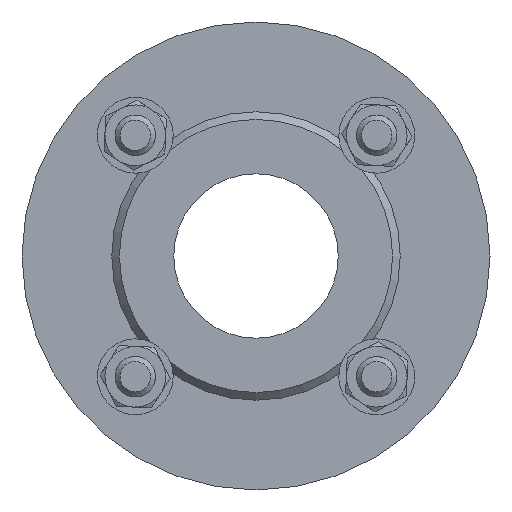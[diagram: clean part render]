
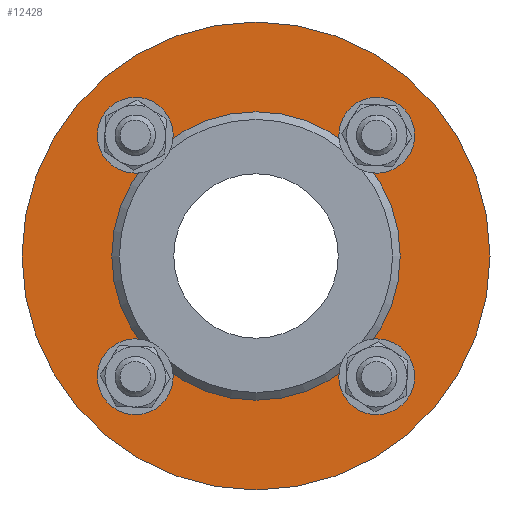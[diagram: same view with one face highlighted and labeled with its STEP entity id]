
A CAD part, left-side view. The second image highlights one B-rep face of the part: STEP entity #12428.
In plain terms, the highlighted planar face has unit normal (-1, 0, 0).
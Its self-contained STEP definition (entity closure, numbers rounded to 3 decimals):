
#321 = ORIENTED_EDGE ( 'NONE', *, *, #4951, .F. ) ;
#514 = DIRECTION ( 'NONE',  ( 0., 0., -1. ) ) ;
#878 = AXIS2_PLACEMENT_3D ( 'NONE', #4650, #13980, #12972 ) ;
#985 = VERTEX_POINT ( 'NONE', #9315 ) ;
#1023 = CARTESIAN_POINT ( 'NONE',  ( -33., 47.73, -47.73 ) ) ;
#1056 = PLANE ( 'NONE',  #13144 ) ;
#1416 = EDGE_CURVE ( 'NONE', #13306, #13306, #13577, .T. ) ;
#1552 = CIRCLE ( 'NONE', #8368, 8. ) ;
#1627 = EDGE_LOOP ( 'NONE', ( #14909 ) ) ;
#2013 = DIRECTION ( 'NONE',  ( -1., 0., 0. ) ) ;
#2148 = CIRCLE ( 'NONE', #9220, 8. ) ;
#2219 = EDGE_CURVE ( 'NONE', #985, #985, #12836, .T. ) ;
#2269 = EDGE_CURVE ( 'NONE', #12460, #12460, #9420, .T. ) ;
#2935 = EDGE_CURVE ( 'NONE', #5733, #5733, #2148, .T. ) ;
#3322 = DIRECTION ( 'NONE',  ( -1., 0., 0. ) ) ;
#3431 = ORIENTED_EDGE ( 'NONE', *, *, #12407, .F. ) ;
#3496 = FACE_OUTER_BOUND ( 'NONE', #9299, .T. ) ;
#3576 = CARTESIAN_POINT ( 'NONE',  ( -33., 0., 0. ) ) ;
#3644 = DIRECTION ( 'NONE',  ( 0., 0., -1. ) ) ;
#3684 = ORIENTED_EDGE ( 'NONE', *, *, #2219, .F. ) ;
#3756 = EDGE_LOOP ( 'NONE', ( #3431 ) ) ;
#3862 = CIRCLE ( 'NONE', #4121, 57. ) ;
#4121 = AXIS2_PLACEMENT_3D ( 'NONE', #3576, #8238, #11602 ) ;
#4201 = ORIENTED_EDGE ( 'NONE', *, *, #2935, .F. ) ;
#4580 = DIRECTION ( 'NONE',  ( 1., 0., 0. ) ) ;
#4650 = CARTESIAN_POINT ( 'NONE',  ( -33., -47.73, 47.73 ) ) ;
#4951 = EDGE_CURVE ( 'NONE', #5585, #5585, #1552, .T. ) ;
#5438 = CARTESIAN_POINT ( 'NONE',  ( -33., 92.5, 0. ) ) ;
#5585 = VERTEX_POINT ( 'NONE', #10241 ) ;
#5733 = VERTEX_POINT ( 'NONE', #10393 ) ;
#5872 = FACE_BOUND ( 'NONE', #7778, .T. ) ;
#6245 = AXIS2_PLACEMENT_3D ( 'NONE', #11450, #10528, #3644 ) ;
#6675 = DIRECTION ( 'NONE',  ( 0., 1., 0. ) ) ;
#7021 = FACE_BOUND ( 'NONE', #14146, .T. ) ;
#7053 = EDGE_LOOP ( 'NONE', ( #4201 ) ) ;
#7778 = EDGE_LOOP ( 'NONE', ( #321 ) ) ;
#7932 = VERTEX_POINT ( 'NONE', #10152 ) ;
#8238 = DIRECTION ( 'NONE',  ( -1., 0., 0. ) ) ;
#8308 = FACE_BOUND ( 'NONE', #7053, .T. ) ;
#8368 = AXIS2_PLACEMENT_3D ( 'NONE', #15000, #10401, #9250 ) ;
#9220 = AXIS2_PLACEMENT_3D ( 'NONE', #1023, #3322, #514 ) ;
#9250 = DIRECTION ( 'NONE',  ( 0., 0., -1. ) ) ;
#9299 = EDGE_LOOP ( 'NONE', ( #12525 ) ) ;
#9315 = CARTESIAN_POINT ( 'NONE',  ( -33., -47.73, -55.73 ) ) ;
#9420 = CIRCLE ( 'NONE', #878, 8. ) ;
#10123 = CARTESIAN_POINT ( 'NONE',  ( -33., 0., 0. ) ) ;
#10152 = CARTESIAN_POINT ( 'NONE',  ( -33., 57., 0. ) ) ;
#10241 = CARTESIAN_POINT ( 'NONE',  ( -33., 47.73, 39.73 ) ) ;
#10393 = CARTESIAN_POINT ( 'NONE',  ( -33., 47.73, -55.73 ) ) ;
#10401 = DIRECTION ( 'NONE',  ( -1., 0., 0. ) ) ;
#10528 = DIRECTION ( 'NONE',  ( -1., 0., 0. ) ) ;
#10608 = FACE_BOUND ( 'NONE', #1627, .T. ) ;
#10636 = AXIS2_PLACEMENT_3D ( 'NONE', #10123, #2013, #6675 ) ;
#11389 = CARTESIAN_POINT ( 'NONE',  ( -33., -47.73, 39.73 ) ) ;
#11450 = CARTESIAN_POINT ( 'NONE',  ( -33., -47.73, -47.73 ) ) ;
#11602 = DIRECTION ( 'NONE',  ( 0., 1., 0. ) ) ;
#12407 = EDGE_CURVE ( 'NONE', #7932, #7932, #3862, .T. ) ;
#12428 = ADVANCED_FACE ( 'NONE', ( #10608, #7021, #5872, #8308, #3496, #15066 ), #1056, .F. ) ;
#12460 = VERTEX_POINT ( 'NONE', #11389 ) ;
#12525 = ORIENTED_EDGE ( 'NONE', *, *, #1416, .T. ) ;
#12836 = CIRCLE ( 'NONE', #6245, 8. ) ;
#12899 = CARTESIAN_POINT ( 'NONE',  ( -33., 0., -92.5 ) ) ;
#12972 = DIRECTION ( 'NONE',  ( 0., 0., -1. ) ) ;
#13144 = AXIS2_PLACEMENT_3D ( 'NONE', #12899, #4580, #13981 ) ;
#13306 = VERTEX_POINT ( 'NONE', #5438 ) ;
#13577 = CIRCLE ( 'NONE', #10636, 92.5 ) ;
#13980 = DIRECTION ( 'NONE',  ( -1., 0., 0. ) ) ;
#13981 = DIRECTION ( 'NONE',  ( 0., -1., 0. ) ) ;
#14146 = EDGE_LOOP ( 'NONE', ( #3684 ) ) ;
#14909 = ORIENTED_EDGE ( 'NONE', *, *, #2269, .F. ) ;
#15000 = CARTESIAN_POINT ( 'NONE',  ( -33., 47.73, 47.73 ) ) ;
#15066 = FACE_BOUND ( 'NONE', #3756, .T. ) ;
